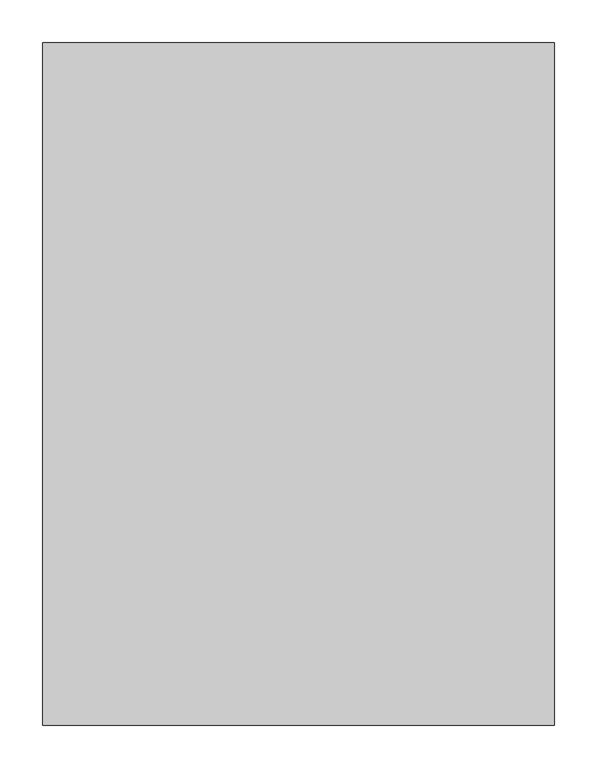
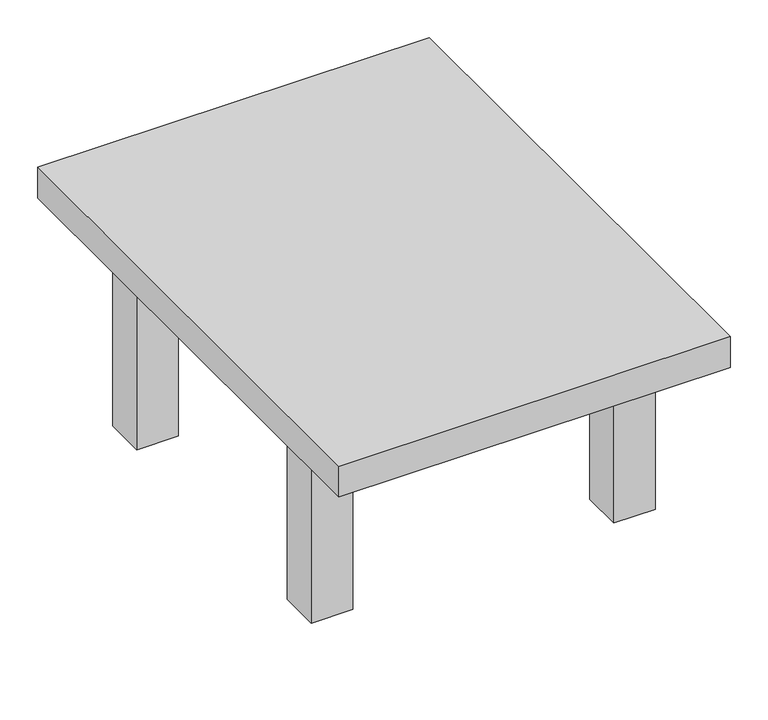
"""IFC4 building model written with IfcOpenShell, lengths in millimetres: furniture geometry, Fu_журнальный_столик_прямоугольный_LEG : 600Х800."""

import ifcopenshell
import ifcopenshell.guid

model = None  # the IFC model being written
_history = None  # IfcOwnerHistory: only IFC2X3 demands one
_inside = {}  # id of a spatial element -> (the spatial element, [elements in it])
_under = {}  # id of a project, library or spatial element -> (it, [spatial elements below it])
_declared = {}  # id of a project -> (the project, [libraries it declares])
_typed = {}  # id of a type object -> (the type object, [elements of that type])
_made_of = {}  # id of a material, layer set ... -> (it, [elements and type objects made of it])


def new_model(schema):
    """Start an empty IFC model of exactly this schema.

    Asked for "IFC4X3", IfcOpenShell would pick the latest addendum, in which some entities
    have other attributes; the version numbers below select the first issue.
    IFC2X3 requires an IfcOwnerHistory on every rooted entity: one is made here for all.
    """
    global model, _history
    if schema == "IFC4X3":
        model = ifcopenshell.file(schema_version=(4, 3, 0, 0))
    else:
        model = ifcopenshell.file(schema=schema)
    _inside.clear()
    _under.clear()
    _declared.clear()
    _typed.clear()
    _made_of.clear()
    _history = None
    if model.schema == "IFC2X3":
        org = make("IfcOrganization", Name="unknown")
        user = make(
            "IfcPersonAndOrganization",
            ThePerson=make("IfcPerson", FamilyName="unknown"),
            TheOrganization=org,
        )
        app = make(
            "IfcApplication",
            ApplicationDeveloper=org,
            Version="unknown",
            ApplicationFullName="unknown",
            ApplicationIdentifier="unknown",
        )
        _history = make(
            "IfcOwnerHistory",
            OwningUser=user,
            OwningApplication=app,
            ChangeAction="ADDED",
            CreationDate=0,
        )
    return model


def make(cls, **values):
    """One entity of the class cls with the attributes given. An attribute that is None is left unset."""
    return model.create_entity(
        cls, **{name: value for name, value in values.items() if value is not None}
    )


def rooted(cls, **values):
    """An entity with a GlobalId (a new one), such as an element, a storey or a relation."""
    return make(cls, GlobalId=ifcopenshell.guid.new(), OwnerHistory=_history, **values)


def si_unit(unit_type, name, prefix=None):
    """IfcSIUnit, for example si_unit("LENGTHUNIT", "METRE", prefix="MILLI")."""
    return make("IfcSIUnit", UnitType=unit_type, Prefix=prefix, Name=name)


def assignment(units):
    """IfcUnitAssignment: the units of a project."""
    return None if units is None else make("IfcUnitAssignment", Units=units)


def point(xyz):
    """IfcCartesianPoint."""
    return None if xyz is None else make("IfcCartesianPoint", Coordinates=xyz)


def direction(xyz):
    """IfcDirection."""
    return None if xyz is None else make("IfcDirection", DirectionRatios=xyz)


def frame(location, z_axis=None, x_axis=None):
    """IfcAxis2Placement3D, a coordinate frame: its origin and axes. An axis left out is left unset."""
    return make(
        "IfcAxis2Placement3D",
        Location=point(location),
        Axis=direction(z_axis),
        RefDirection=direction(x_axis),
    )


def origin():
    """The frame at (0, 0, 0) with its axes left unset."""
    return frame((0.0, 0.0, 0.0))


def origin_with_axes():
    """The frame at (0, 0, 0) with the z axis (0, 0, 1) and the x axis (1, 0, 0) written out."""
    return frame((0.0, 0.0, 0.0), z_axis=(0.0, 0.0, 1.0), x_axis=(1.0, 0.0, 0.0))


def place(relative_to, where):
    """IfcLocalPlacement: puts the frame where relative to a parent placement (None: the world)."""
    return make(
        "IfcLocalPlacement", PlacementRelTo=relative_to, RelativePlacement=where
    )


def context(
    kind, dimensions, precision=None, world=None, true_north=None, identifier=None
):
    """IfcGeometricRepresentationContext, for example the 3D "Model" context."""
    return make(
        "IfcGeometricRepresentationContext",
        ContextIdentifier=identifier,
        ContextType=kind,
        CoordinateSpaceDimension=dimensions,
        Precision=precision,
        WorldCoordinateSystem=world,
        TrueNorth=true_north,
    )


def project(units=None, contexts=None):
    """IfcProject with its units and contexts."""
    return rooted(
        "IfcProject",
        Name="project",
        RepresentationContexts=contexts,
        UnitsInContext=assignment(units),
    )


def spatial(cls, under=None, at=None, **own):
    """A site, building, storey or space (cls), placed at a placement, below another one or the project."""
    s = rooted(cls, ObjectPlacement=at, **own)
    if under is not None:
        _under.setdefault(under.id(), (under, []))[1].append(s)
    return s


def polyline(points):
    """IfcPolyline through the points."""
    return make("IfcPolyline", Points=[point(p) for p in points])


def outline(outer, holes=None, kind="AREA"):
    """IfcArbitraryClosedProfileDef: a profile drawn as a closed curve; with holes, ...WithVoids."""
    if holes is None:
        return make("IfcArbitraryClosedProfileDef", ProfileType=kind, OuterCurve=outer)
    return make(
        "IfcArbitraryProfileDefWithVoids",
        ProfileType=kind,
        OuterCurve=outer,
        InnerCurves=holes,
    )


def extrude(swept, where, along, depth):
    """IfcExtrudedAreaSolid: the profile swept, set in the frame where, extruded along a direction by depth."""
    return make(
        "IfcExtrudedAreaSolid",
        SweptArea=swept,
        Position=where,
        ExtrudedDirection=direction(along),
        Depth=depth,
    )


def shape(context_of_items, identifier, shape_type, items):
    """IfcShapeRepresentation: the items that make up one representation, for example the "Body"."""
    return make(
        "IfcShapeRepresentation",
        ContextOfItems=context_of_items,
        RepresentationIdentifier=identifier,
        RepresentationType=shape_type,
        Items=items,
    )


def source(mapping_origin, context_of_items, identifier, shape_type, items):
    """IfcRepresentationMap: a shape defined once, which mapped items show again and again."""
    return make(
        "IfcRepresentationMap",
        MappingOrigin=mapping_origin,
        MappedRepresentation=shape(context_of_items, identifier, shape_type, items),
    )


def transform(
    local_origin,
    x_axis=None,
    y_axis=None,
    z_axis=None,
    scale=None,
    scale2=None,
    scale3=None,
    uniform=True,
):
    """IfcCartesianTransformationOperator3D, or its non-uniform kind. x_axis, y_axis, z_axis: its Axis1, 2, 3."""
    if uniform:
        return make(
            "IfcCartesianTransformationOperator3D",
            Axis1=direction(x_axis),
            Axis2=direction(y_axis),
            LocalOrigin=point(local_origin),
            Scale=scale,
            Axis3=direction(z_axis),
        )
    return make(
        "IfcCartesianTransformationOperator3DnonUniform",
        Axis1=direction(x_axis),
        Axis2=direction(y_axis),
        LocalOrigin=point(local_origin),
        Scale=scale,
        Axis3=direction(z_axis),
        Scale2=scale2,
        Scale3=scale3,
    )


def mapped(mapping_source, mapping_target):
    """IfcMappedItem: shows the shape of a source again, moved by a transform."""
    return make(
        "IfcMappedItem", MappingSource=mapping_source, MappingTarget=mapping_target
    )


def made_of(thing, what):
    """Note that an element or type object is made of a material, layer set ...; save() writes the relation."""
    if what is not None:
        _made_of.setdefault(what.id(), (what, []))[1].append(thing)
    return thing


def element(
    cls,
    number,
    at=None,
    inside=None,
    cuts=None,
    type_object=None,
    material=None,
    context=None,
    identifier="Body",
    shape_type=None,
    held_by="IfcProductDefinitionShape",
    body=None,
    shapes=None,
    **own,
):
    """One element of the class cls, such as IfcWall. Its Tag is "e" and its number.

    at: its placement. inside: the storey or other place that contains it. cuts: it is an
    opening in that element (IfcRelVoidsElement). A single representation is given by context,
    identifier, shape_type and body (its items); several are given by shapes. held_by: the class
    of the entity that holds the representations. save() writes the other relations.
    """
    e = rooted(cls, Tag="e%d" % number, ObjectPlacement=at, **own)
    if body is not None:
        shapes = [shape(context, identifier, shape_type, body)]
    if shapes is not None:
        e.Representation = make(held_by, Representations=shapes)
    if inside is not None:
        _inside.setdefault(inside.id(), (inside, []))[1].append(e)
    if cuts is not None:
        rooted(
            "IfcRelVoidsElement", RelatingBuildingElement=cuts, RelatedOpeningElement=e
        )
    if type_object is not None:
        _typed.setdefault(type_object.id(), (type_object, []))[1].append(e)
    return made_of(e, material)


def aggregate(whole, parts):
    """IfcRelAggregates: a whole, such as a stair, and the parts it consists of."""
    return rooted("IfcRelAggregates", RelatingObject=whole, RelatedObjects=parts)


def save(model, path):
    """Write the relations noted so far, then the file.

    IfcRelAggregates (storeys below a building ...), IfcRelContainedInSpatialStructure (elements
    in a storey), IfcRelDefinesByType, IfcRelAssociatesMaterial and IfcRelDeclares: one each for
    every whole, place, type object, material and project.
    """
    for whole, parts in _under.values():
        aggregate(whole, parts)
    for where, things in _inside.values():
        rooted(
            "IfcRelContainedInSpatialStructure",
            RelatedElements=things,
            RelatingStructure=where,
        )
    for kind, things in _typed.values():
        rooted("IfcRelDefinesByType", RelatedObjects=things, RelatingType=kind)
    for what, things in _made_of.values():
        rooted("IfcRelAssociatesMaterial", RelatedObjects=things, RelatingMaterial=what)
    for by, libraries in _declared.values():
        rooted("IfcRelDeclares", RelatingContext=by, RelatedDefinitions=libraries)
    model.write(path)


def furniture_04e13bb0(model_context):
    return source(origin(), model_context, "Body", "SweptSolid", [
        extrude(outline(polyline([(-750.0, 263.5), (-750.0, 200.0), (-813.5, 200.0), (-813.5, 263.5), (-750.0, 263.5)])), origin_with_axes(), (0.0, 0.0, 1.0), 300.0),
        extrude(outline(polyline([(-350.0, 263.5), (-286.5, 263.5), (-286.5, 200.0), (-350.0, 200.0), (-350.0, 263.5)])), origin_with_axes(), (0.0, 0.0, 1.0), 300.0),
        extrude(outline(polyline([(-750.0, -263.5), (-813.5, -263.5), (-813.5, -200.0), (-750.0, -200.0), (-750.0, -263.5)])), origin_with_axes(), (0.0, 0.0, 1.0), 300.0),
        extrude(outline(polyline([(-350.0, -263.5), (-350.0, -200.0), (-286.5, -200.0), (-286.5, -263.5), (-350.0, -263.5)])), origin_with_axes(), (0.0, 0.0, 1.0), 300.0),
        extrude(outline(polyline([(-250.0, -400.0), (-850.0, -400.0), (-850.0, 400.0), (-250.0, 400.0), (-250.0, -400.0)])), frame((0.0, 0.0, 300.0), z_axis=(0.0, 0.0, 1.0), x_axis=(1.0, 0.0, 0.0)), (0.0, 0.0, 1.0), 50.0),
    ])


if __name__ == "__main__":
    model = new_model("IFC4")
    model_context = context("Model", 3, world=origin())
    ifc_project = project(units=[si_unit("LENGTHUNIT", "METRE", prefix="MILLI")], contexts=[model_context])
    site = spatial("IfcSite", under=ifc_project)
    building = spatial("IfcBuilding", under=site)
    placement = place(None, origin())
    furniture_shape = furniture_04e13bb0(model_context)
    element("IfcFurniture", 1, ObjectType="Fu_журнальный_столик_прямоугольный_LEG : 600Х800", at=placement, inside=building, context=model_context, shape_type="MappedRepresentation", body=[
        mapped(furniture_shape, transform((0.0, 0.0, 0.0), x_axis=(1.0, 0.0, 0.0), y_axis=(0.0, 1.0, 0.0), z_axis=(0.0, 0.0, 1.0))),
    ])
    save(model, "model.ifc")
